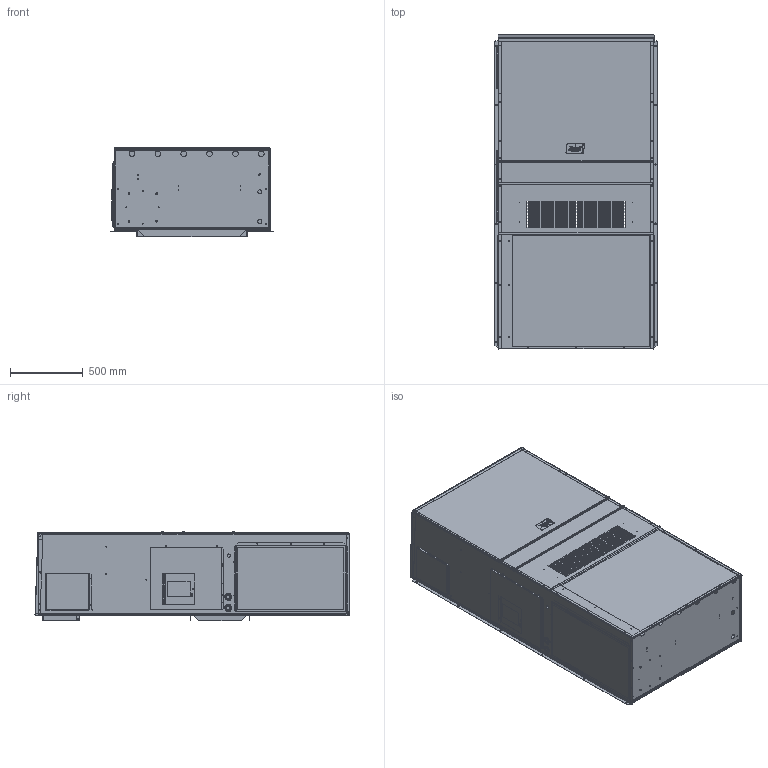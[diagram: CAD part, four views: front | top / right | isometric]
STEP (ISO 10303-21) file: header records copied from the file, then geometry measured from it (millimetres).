
FILE_DESCRIPTION (( 'STEP AP214' ), '1' );
FILE_NAME ('STEP_1100.STEP', '2016-06-24T16:51:44', ( 'BMC' ), ( 'Bard Manufacturing Co., Inc.' ), 'SwSTEP 2.0', 'SolidWorks 2016', '' );
FILE_SCHEMA (( 'AUTOMOTIVE_DESIGN' ));
Length unit declared in the file: inch
Products named in the file (1): STEP_1100
Bounding box: 1114 x 2155.74 x 613.16 mm (x, y, z)
Volume: 8859243.3 mm3; surface area: 17555551.6 mm2
Topology: 34 solids, 34 shells, 3246 faces, 8881 edges, 5778 vertices
Faces by surface type: plane 1420, cylinder 934, torus 770, bspline 118, cone 4
Entity records: 124825 total; most frequent: CARTESIAN_POINT 37214, DIRECTION 18091, ORIENTED_EDGE 17760, EDGE_CURVE 8880, AXIS2_PLACEMENT_3D 6764, VERTEX_POINT 5778, VECTOR 4563, LINE 4563
